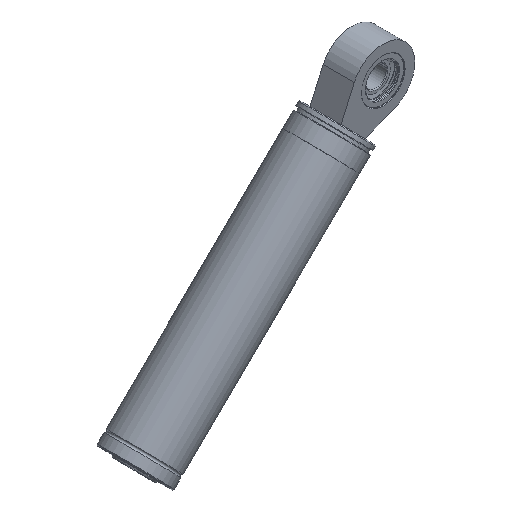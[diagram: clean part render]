
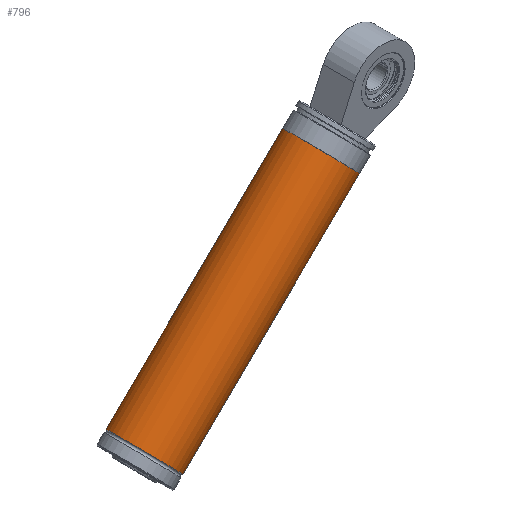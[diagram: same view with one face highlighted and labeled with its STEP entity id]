
A CAD part, isometric view. The second image highlights one B-rep face of the part: STEP entity #796.
In plain terms, the highlighted cylindrical face has radius 60 mm (diameter 120 mm), a partial arc.
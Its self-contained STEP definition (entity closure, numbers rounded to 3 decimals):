
#429=AXIS2_PLACEMENT_3D('Cylinder Axis2P3D',#426,#427,#428) ;
#749=AXIS2_PLACEMENT_3D('Circle Axis2P3D',#747,#748,$) ;
#787=AXIS2_PLACEMENT_3D('Circle Axis2P3D',#785,#786,$) ;
#426=CARTESIAN_POINT('Axis2P3D Location',(471.575,202.,1057.699)) ;
#725=CARTESIAN_POINT('Vertex',(421.997,254.654,1049.521)) ;
#732=CARTESIAN_POINT('Vertex',(462.17,149.345,1008.339)) ;
#747=CARTESIAN_POINT('Axis2P3D Location',(442.084,202.,1028.93)) ;
#759=CARTESIAN_POINT('Line Origine',(261.278,254.654,892.738)) ;
#763=CARTESIAN_POINT('Vertex',(86.887,254.654,722.618)) ;
#766=CARTESIAN_POINT('Line Origine',(301.451,149.345,851.556)) ;
#770=CARTESIAN_POINT('Vertex',(127.06,149.345,681.436)) ;
#785=CARTESIAN_POINT('Axis2P3D Location',(106.973,202.,702.027)) ;
#427=DIRECTION('Axis2P3D Direction',(0.716,0.,0.698)) ;
#428=DIRECTION('Axis2P3D XDirection',(0.335,-0.878,-0.343)) ;
#748=DIRECTION('Axis2P3D Direction',(-0.716,0.,-0.698)) ;
#760=DIRECTION('Vector Direction',(0.716,0.,0.698)) ;
#767=DIRECTION('Vector Direction',(0.716,0.,0.698)) ;
#786=DIRECTION('Axis2P3D Direction',(0.716,0.,0.698)) ;
#761=VECTOR('Line Direction',#760,1.) ;
#768=VECTOR('Line Direction',#767,1.) ;
#791=ORIENTED_EDGE('',*,*,#772,.T.) ;
#792=ORIENTED_EDGE('',*,*,#751,.F.) ;
#793=ORIENTED_EDGE('',*,*,#765,.F.) ;
#794=ORIENTED_EDGE('',*,*,#789,.T.) ;
#796=ADVANCED_FACE('Pushtype_b.1\\\X2\FF8AFF9FFF70FF82\X0\ \X2\FF8EFF9EFF83FF9EFF68FF70\X0\',(#795),#430,.T.) ;
#750=CIRCLE('generated circle',#749,60.) ;
#788=CIRCLE('generated circle',#787,60.) ;
#430=CYLINDRICAL_SURFACE('generated cylinder',#429,60.) ;
#751=EDGE_CURVE('',#726,#733,#750,.F.) ;
#765=EDGE_CURVE('',#764,#726,#762,.T.) ;
#772=EDGE_CURVE('',#771,#733,#769,.T.) ;
#789=EDGE_CURVE('',#764,#771,#788,.T.) ;
#790=EDGE_LOOP('',(#791,#792,#793,#794)) ;
#795=FACE_OUTER_BOUND('',#790,.T.) ;
#762=LINE('Line',#759,#761) ;
#769=LINE('Line',#766,#768) ;
#726=VERTEX_POINT('',#725) ;
#733=VERTEX_POINT('',#732) ;
#764=VERTEX_POINT('',#763) ;
#771=VERTEX_POINT('',#770) ;
